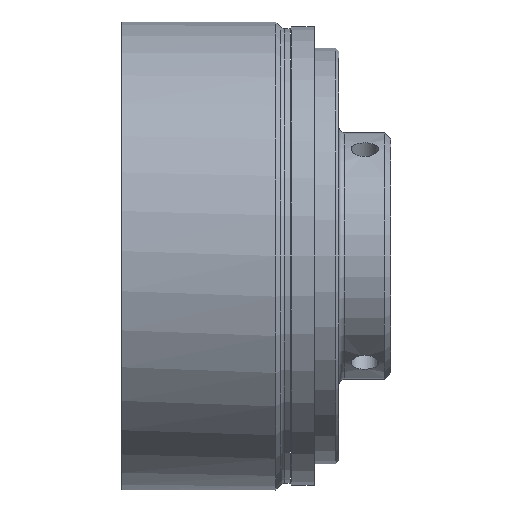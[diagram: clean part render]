
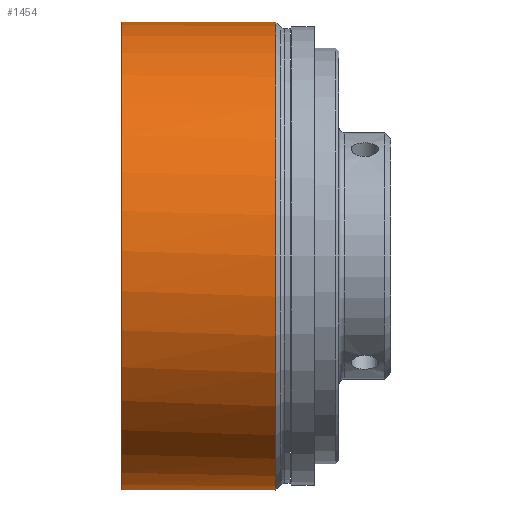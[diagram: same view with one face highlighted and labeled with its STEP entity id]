
A CAD part, front view. The second image highlights one B-rep face of the part: STEP entity #1454.
In plain terms, the highlighted cylindrical face has radius 36 mm (diameter 72 mm), a full revolution.
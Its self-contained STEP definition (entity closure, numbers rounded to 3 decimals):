
#19 = ORIENTED_EDGE ( 'NONE', *, *, #403, .F. ) ;
#46 = DIRECTION ( 'NONE',  ( -1., 0., 0. ) ) ;
#183 = CARTESIAN_POINT ( 'NONE',  ( 0., 0., 0. ) ) ;
#251 = VECTOR ( 'NONE', #496, 1000. ) ;
#331 = EDGE_CURVE ( 'NONE', #2168, #2168, #410, .T. ) ;
#394 = DIRECTION ( 'NONE',  ( 0., 0., 1. ) ) ;
#403 = EDGE_CURVE ( 'NONE', #1350, #576, #2093, .T. ) ;
#410 = CIRCLE ( 'NONE', #485, 36. ) ;
#455 = EDGE_CURVE ( 'NONE', #2076, #576, #646, .T. ) ;
#485 = AXIS2_PLACEMENT_3D ( 'NONE', #1564, #46, #394 ) ;
#496 = DIRECTION ( 'NONE',  ( -1., 0., 0. ) ) ;
#574 = ORIENTED_EDGE ( 'NONE', *, *, #1325, .F. ) ;
#576 = VERTEX_POINT ( 'NONE', #1220 ) ;
#593 = EDGE_CURVE ( 'NONE', #2076, #661, #1542, .T. ) ;
#605 = EDGE_LOOP ( 'NONE', ( #1147 ) ) ;
#646 = LINE ( 'NONE', #2018, #251 ) ;
#661 = VERTEX_POINT ( 'NONE', #2060 ) ;
#686 = AXIS2_PLACEMENT_3D ( 'NONE', #1618, #1137, #1969 ) ;
#806 = CARTESIAN_POINT ( 'NONE',  ( 11.5, 35.93, 2.25 ) ) ;
#876 = CARTESIAN_POINT ( 'NONE',  ( 11.5, 0., 0. ) ) ;
#902 = DIRECTION ( 'NONE',  ( -1., 0., 0. ) ) ;
#913 = AXIS2_PLACEMENT_3D ( 'NONE', #183, #1681, #1535 ) ;
#933 = CARTESIAN_POINT ( 'NONE',  ( 0., 35.93, -2.25 ) ) ;
#949 = EDGE_LOOP ( 'NONE', ( #574, #1398, #1265, #19 ) ) ;
#1022 = FACE_OUTER_BOUND ( 'NONE', #949, .T. ) ;
#1137 = DIRECTION ( 'NONE',  ( -1., 0., 0. ) ) ;
#1147 = ORIENTED_EDGE ( 'NONE', *, *, #331, .T. ) ;
#1220 = CARTESIAN_POINT ( 'NONE',  ( 0., 35.93, 2.25 ) ) ;
#1262 = DIRECTION ( 'NONE',  ( -1., 0., 0. ) ) ;
#1265 = ORIENTED_EDGE ( 'NONE', *, *, #455, .T. ) ;
#1325 = EDGE_CURVE ( 'NONE', #661, #1350, #1879, .T. ) ;
#1350 = VERTEX_POINT ( 'NONE', #933 ) ;
#1398 = ORIENTED_EDGE ( 'NONE', *, *, #593, .F. ) ;
#1454 = ADVANCED_FACE ( 'NONE', ( #1022, #2143 ), #1491, .T. ) ;
#1473 = CARTESIAN_POINT ( 'NONE',  ( 23.7, 0., 36. ) ) ;
#1491 = CYLINDRICAL_SURFACE ( 'NONE', #686, 36. ) ;
#1535 = DIRECTION ( 'NONE',  ( 0., 0., 1. ) ) ;
#1542 = CIRCLE ( 'NONE', #2107, 36. ) ;
#1564 = CARTESIAN_POINT ( 'NONE',  ( 23.7, 0., 0. ) ) ;
#1618 = CARTESIAN_POINT ( 'NONE',  ( 0., 0., 0. ) ) ;
#1681 = DIRECTION ( 'NONE',  ( -1., 0., 0. ) ) ;
#1772 = VECTOR ( 'NONE', #1262, 1000. ) ;
#1879 = LINE ( 'NONE', #1950, #1772 ) ;
#1950 = CARTESIAN_POINT ( 'NONE',  ( 11.5, 35.93, -2.25 ) ) ;
#1969 = DIRECTION ( 'NONE',  ( 0., 0., 1. ) ) ;
#2018 = CARTESIAN_POINT ( 'NONE',  ( 11.5, 35.93, 2.25 ) ) ;
#2060 = CARTESIAN_POINT ( 'NONE',  ( 11.5, 35.93, -2.25 ) ) ;
#2071 = DIRECTION ( 'NONE',  ( 0., 0., 1. ) ) ;
#2076 = VERTEX_POINT ( 'NONE', #806 ) ;
#2093 = CIRCLE ( 'NONE', #913, 36. ) ;
#2107 = AXIS2_PLACEMENT_3D ( 'NONE', #876, #902, #2071 ) ;
#2143 = FACE_OUTER_BOUND ( 'NONE', #605, .T. ) ;
#2168 = VERTEX_POINT ( 'NONE', #1473 ) ;
